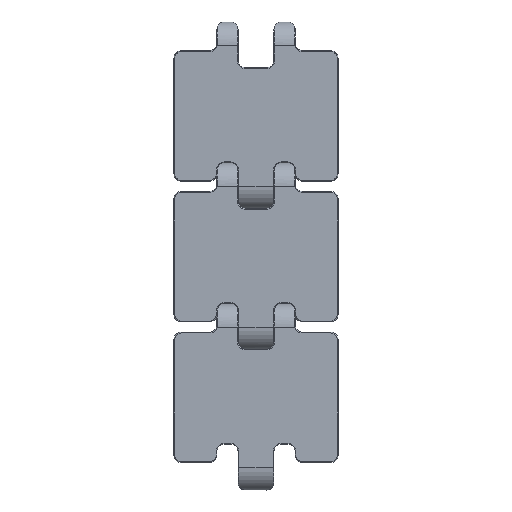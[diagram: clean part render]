
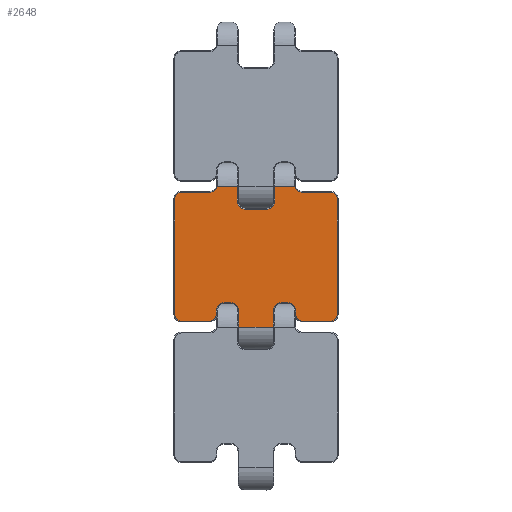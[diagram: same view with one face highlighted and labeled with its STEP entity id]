
A CAD part, top view. The second image highlights one B-rep face of the part: STEP entity #2648.
In plain terms, the highlighted planar face has unit normal (0, 0, 1).
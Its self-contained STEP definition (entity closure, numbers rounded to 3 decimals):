
#1972=EDGE_CURVE('',#5652,#5653,#5654,.F.);
#1986=EDGE_CURVE('',#5678,#5679,#5680,.F.);
#2104=EDGE_CURVE('',#5679,#5881,#5882,.T.);
#2238=EDGE_CURVE('',#5540,#6107,#6108,.T.);
#2338=EDGE_CURVE('',#6264,#5370,#6265,.F.);
#2344=EDGE_CURVE('',#6107,#5958,#6274,.T.);
#2430=EDGE_CURVE('',#6410,#5976,#6411,.F.);
#2438=EDGE_CURVE('',#5881,#5540,#6421,.T.);
#2468=EDGE_CURVE('',#6464,#6465,#6466,.T.);
#2636=EDGE_CURVE('',#6433,#6717,#6718,.T.);
#2648=ADVANCED_FACE('',(#6733),#6734,.F.);
#2776=EDGE_CURVE('',#6919,#6920,#6921,.F.);
#2816=EDGE_CURVE('',#6445,#6979,#6980,.F.);
#2908=EDGE_CURVE('',#5976,#6919,#7121,.F.);
#3094=EDGE_CURVE('',#7388,#5678,#7389,.F.);
#3224=EDGE_CURVE('',#6465,#7564,#7565,.T.);
#3332=EDGE_CURVE('',#5370,#7715,#7716,.F.);
#3566=EDGE_CURVE('',#7419,#6410,#8020,.F.);
#3744=EDGE_CURVE('',#8251,#8252,#8253,.F.);
#3822=EDGE_CURVE('',#5653,#6433,#8355,.T.);
#3844=EDGE_CURVE('',#8320,#7419,#8381,.T.);
#3872=EDGE_CURVE('',#6717,#7305,#8419,.T.);
#3892=EDGE_CURVE('',#6248,#6464,#8443,.T.);
#4094=EDGE_CURVE('',#6979,#8320,#8692,.T.);
#4336=EDGE_CURVE('',#7305,#7792,#8977,.T.);
#4424=EDGE_CURVE('',#9048,#6445,#9082,.T.);
#4738=EDGE_CURVE('',#7715,#6248,#9449,.T.);
#4776=EDGE_CURVE('',#7792,#9491,#9492,.F.);
#4780=EDGE_CURVE('',#5652,#5958,#9496,.T.);
#4812=EDGE_CURVE('',#7564,#9048,#9533,.F.);
#4832=EDGE_CURVE('',#8252,#6264,#9556,.T.);
#5134=EDGE_CURVE('',#9491,#8251,#9907,.F.);
#5158=EDGE_CURVE('',#6920,#7388,#9936,.F.);
#5370=VERTEX_POINT('',#10186);
#5540=VERTEX_POINT('',#10568);
#5652=VERTEX_POINT('',#11019);
#5653=VERTEX_POINT('',#11020);
#5654=LINE('',#11021,#11022);
#5678=VERTEX_POINT('',#11143);
#5679=VERTEX_POINT('',#11144);
#5680=LINE('',#11145,#11146);
#5881=VERTEX_POINT('',#11652);
#5882=CIRCLE('',#11653,2.2);
#5958=VERTEX_POINT('',#11880);
#5976=VERTEX_POINT('',#11905);
#6107=VERTEX_POINT('',#12186);
#6108=CIRCLE('',#12187,2.2);
#6248=VERTEX_POINT('',#12501);
#6264=VERTEX_POINT('',#12542);
#6265=CIRCLE('',#12543,1.8);
#6274=LINE('',#12661,#12662);
#6410=VERTEX_POINT('',#13074);
#6411=CIRCLE('',#13075,1.8);
#6421=LINE('',#13087,#13088);
#6433=VERTEX_POINT('',#13102);
#6445=VERTEX_POINT('',#13204);
#6464=VERTEX_POINT('',#13256);
#6465=VERTEX_POINT('',#13257);
#6466=LINE('',#13258,#13259);
#6717=VERTEX_POINT('',#13749);
#6718=LINE('',#13750,#13751);
#6733=FACE_OUTER_BOUND('',#13770,.T.);
#6734=PLANE('',#13771);
#6919=VERTEX_POINT('',#14311);
#6920=VERTEX_POINT('',#14312);
#6921=CIRCLE('',#14313,1.8);
#6979=VERTEX_POINT('',#14478);
#6980=LINE('',#14479,#14480);
#7121=LINE('',#14771,#14772);
#7305=VERTEX_POINT('',#15325);
#7388=VERTEX_POINT('',#15457);
#7389=CIRCLE('',#15458,1.8);
#7419=VERTEX_POINT('',#15513);
#7564=VERTEX_POINT('',#15782);
#7565=CIRCLE('',#15783,2.2);
#7715=VERTEX_POINT('',#16022);
#7716=LINE('',#16023,#16024);
#7792=VERTEX_POINT('',#16169);
#8020=LINE('',#16706,#16707);
#8251=VERTEX_POINT('',#17421);
#8252=VERTEX_POINT('',#17422);
#8253=CIRCLE('',#17423,1.8);
#8320=VERTEX_POINT('',#17524);
#8355=CIRCLE('',#17692,2.2);
#8381=CIRCLE('',#17735,2.2);
#8419=CIRCLE('',#17797,2.2);
#8443=LINE('',#17848,#17849);
#8692=LINE('',#18411,#18412);
#8977=LINE('',#19195,#19196);
#9048=VERTEX_POINT('',#19443);
#9082=CIRCLE('',#19584,2.2);
#9449=CIRCLE('',#20959,2.2);
#9491=VERTEX_POINT('',#21071);
#9492=CIRCLE('',#21072,1.8);
#9496=LINE('',#21079,#21080);
#9533=LINE('',#21200,#21201);
#9556=LINE('',#21275,#21276);
#9907=LINE('',#22487,#22488);
#9936=LINE('',#22562,#22563);
#10186=CARTESIAN_POINT('',(20.225,74.6,6.45));
#10568=CARTESIAN_POINT('',(-6.85,44.7,6.45));
#11019=CARTESIAN_POINT('',(4.65,38.1,6.45));
#11020=CARTESIAN_POINT('',(4.65,42.5,6.45));
#11021=CARTESIAN_POINT('',(4.65,40.3,6.45));
#11022=VECTOR('',#23328,1.0);
#11143=CARTESIAN_POINT('',(-10.8,41.5,6.45));
#11144=CARTESIAN_POINT('',(-10.8,42.5,6.45));
#11145=CARTESIAN_POINT('',(-10.8,42.,6.45));
#11146=VECTOR('',#23348,1.0);
#11652=CARTESIAN_POINT('',(-8.6,44.7,6.45));
#11653=AXIS2_PLACEMENT_3D('',#23581,#23582,#23583);
#11880=CARTESIAN_POINT('',(-4.65,38.1,6.45));
#11905=CARTESIAN_POINT('',(-22.025,72.8,6.45));
#12186=CARTESIAN_POINT('',(-4.65,42.5,6.45));
#12187=AXIS2_PLACEMENT_3D('',#23796,#23797,#23798);
#12501=CARTESIAN_POINT('',(10.483,76.2,6.45));
#12542=CARTESIAN_POINT('',(22.025,72.8,6.45));
#12543=AXIS2_PLACEMENT_3D('',#23998,#23999,#24000);
#12661=CARTESIAN_POINT('',(-4.65,40.3,6.45));
#12662=VECTOR('',#24010,1.0);
#13074=CARTESIAN_POINT('',(-20.225,74.6,6.45));
#13075=AXIS2_PLACEMENT_3D('',#24170,#24171,#24172);
#13087=CARTESIAN_POINT('',(-7.725,44.7,6.45));
#13088=VECTOR('',#24192,1.0);
#13102=CARTESIAN_POINT('',(6.85,44.7,6.45));
#13204=CARTESIAN_POINT('',(-5.05,72.2,6.45));
#13256=CARTESIAN_POINT('',(5.05,76.2,6.45));
#13257=CARTESIAN_POINT('',(5.05,72.2,6.45));
#13258=CARTESIAN_POINT('',(5.05,74.2,6.45));
#13259=VECTOR('',#24262,1.0);
#13749=CARTESIAN_POINT('',(8.6,44.7,6.45));
#13750=CARTESIAN_POINT('',(7.725,44.7,6.45));
#13751=VECTOR('',#24611,1.0);
#13770=EDGE_LOOP('',(#24633,#24634,#24635,#24636,#24637,#24638,#24639,#24640,#24641,#24642,#24643,#24644,#24645,#24646,#24647,#24648,#24649,#24650,#24651,#24652,#24653,#24654,#24655,#24656,#24657,#24658,#24659,#24660,#24661,#24662,#24663,#24664));
#13771=AXIS2_PLACEMENT_3D('',#24665,#24666,#24667);
#14311=CARTESIAN_POINT('',(-22.025,41.5,6.45));
#14312=CARTESIAN_POINT('',(-20.225,39.7,6.45));
#14313=AXIS2_PLACEMENT_3D('',#24929,#24930,#24931);
#14478=CARTESIAN_POINT('',(-5.05,76.2,6.45));
#14479=CARTESIAN_POINT('',(-5.05,74.2,6.45));
#14480=VECTOR('',#25015,1.0);
#14771=CARTESIAN_POINT('',(-22.025,57.15,6.45));
#14772=VECTOR('',#25195,1.0);
#15325=CARTESIAN_POINT('',(10.8,42.5,6.45));
#15457=CARTESIAN_POINT('',(-12.6,39.7,6.45));
#15458=AXIS2_PLACEMENT_3D('',#25588,#25589,#25590);
#15513=CARTESIAN_POINT('',(-12.6,74.6,6.45));
#15782=CARTESIAN_POINT('',(2.85,70.,6.45));
#15783=AXIS2_PLACEMENT_3D('',#25869,#25870,#25871);
#16022=CARTESIAN_POINT('',(12.6,74.6,6.45));
#16023=CARTESIAN_POINT('',(13.238,74.6,6.45));
#16024=VECTOR('',#26098,1.0);
#16169=CARTESIAN_POINT('',(10.8,41.5,6.45));
#16706=CARTESIAN_POINT('',(-13.238,74.6,6.45));
#16707=VECTOR('',#26535,1.0);
#17421=CARTESIAN_POINT('',(20.225,39.7,6.45));
#17422=CARTESIAN_POINT('',(22.025,41.5,6.45));
#17423=AXIS2_PLACEMENT_3D('',#26861,#26862,#26863);
#17524=CARTESIAN_POINT('',(-10.483,76.2,6.45));
#17692=AXIS2_PLACEMENT_3D('',#27043,#27044,#27045);
#17735=AXIS2_PLACEMENT_3D('',#27082,#27083,#27084);
#17797=AXIS2_PLACEMENT_3D('',#27134,#27135,#27136);
#17848=CARTESIAN_POINT('',(7.767,76.2,6.45));
#17849=VECTOR('',#27167,1.0);
#18411=CARTESIAN_POINT('',(-7.767,76.2,6.45));
#18412=VECTOR('',#27557,1.0);
#19195=CARTESIAN_POINT('',(10.8,42.,6.45));
#19196=VECTOR('',#27969,1.0);
#19443=CARTESIAN_POINT('',(-2.85,70.,6.45));
#19584=AXIS2_PLACEMENT_3D('',#28102,#28103,#28104);
#20959=AXIS2_PLACEMENT_3D('',#28695,#28696,#28697);
#21071=CARTESIAN_POINT('',(12.6,39.7,6.45));
#21072=AXIS2_PLACEMENT_3D('',#28746,#28747,#28748);
#21079=CARTESIAN_POINT('',(0.,38.1,6.45));
#21080=VECTOR('',#28750,1.0);
#21200=CARTESIAN_POINT('',(0.,70.,6.45));
#21201=VECTOR('',#28812,1.0);
#21275=CARTESIAN_POINT('',(22.025,57.15,6.45));
#21276=VECTOR('',#28839,1.0);
#22487=CARTESIAN_POINT('',(13.238,39.7,6.45));
#22488=VECTOR('',#29397,1.0);
#22562=CARTESIAN_POINT('',(-13.237,39.7,6.45));
#22563=VECTOR('',#29447,1.0);
#23328=DIRECTION('',(0.0,-1.0,0.0));
#23348=DIRECTION('',(0.0,-1.0,0.0));
#23581=CARTESIAN_POINT('',(-8.6,42.5,6.45));
#23582=DIRECTION('',(0.0,0.0,-1.0));
#23583=DIRECTION('',(1.0,0.0,0.0));
#23796=CARTESIAN_POINT('',(-6.85,42.5,6.45));
#23797=DIRECTION('',(0.0,0.0,-1.0));
#23798=DIRECTION('',(1.0,0.0,0.0));
#23998=CARTESIAN_POINT('',(20.225,72.8,6.45));
#23999=DIRECTION('',(0.0,0.0,-1.0));
#24000=DIRECTION('',(1.0,0.0,0.0));
#24010=DIRECTION('',(0.0,-1.0,0.0));
#24170=CARTESIAN_POINT('',(-20.225,72.8,6.45));
#24171=DIRECTION('',(0.0,0.0,-1.0));
#24172=DIRECTION('',(1.0,0.0,0.0));
#24192=DIRECTION('',(1.0,0.0,0.0));
#24262=DIRECTION('',(0.0,-1.0,0.0));
#24611=DIRECTION('',(1.0,0.0,0.0));
#24633=ORIENTED_EDGE('',*,*,#3892,.T.);
#24634=ORIENTED_EDGE('',*,*,#2468,.T.);
#24635=ORIENTED_EDGE('',*,*,#3224,.T.);
#24636=ORIENTED_EDGE('',*,*,#4812,.T.);
#24637=ORIENTED_EDGE('',*,*,#4424,.T.);
#24638=ORIENTED_EDGE('',*,*,#2816,.T.);
#24639=ORIENTED_EDGE('',*,*,#4094,.T.);
#24640=ORIENTED_EDGE('',*,*,#3844,.T.);
#24641=ORIENTED_EDGE('',*,*,#3566,.T.);
#24642=ORIENTED_EDGE('',*,*,#2430,.T.);
#24643=ORIENTED_EDGE('',*,*,#2908,.T.);
#24644=ORIENTED_EDGE('',*,*,#2776,.T.);
#24645=ORIENTED_EDGE('',*,*,#5158,.T.);
#24646=ORIENTED_EDGE('',*,*,#3094,.T.);
#24647=ORIENTED_EDGE('',*,*,#1986,.T.);
#24648=ORIENTED_EDGE('',*,*,#2104,.T.);
#24649=ORIENTED_EDGE('',*,*,#2438,.T.);
#24650=ORIENTED_EDGE('',*,*,#2238,.T.);
#24651=ORIENTED_EDGE('',*,*,#2344,.T.);
#24652=ORIENTED_EDGE('',*,*,#4780,.F.);
#24653=ORIENTED_EDGE('',*,*,#1972,.T.);
#24654=ORIENTED_EDGE('',*,*,#3822,.T.);
#24655=ORIENTED_EDGE('',*,*,#2636,.T.);
#24656=ORIENTED_EDGE('',*,*,#3872,.T.);
#24657=ORIENTED_EDGE('',*,*,#4336,.T.);
#24658=ORIENTED_EDGE('',*,*,#4776,.T.);
#24659=ORIENTED_EDGE('',*,*,#5134,.T.);
#24660=ORIENTED_EDGE('',*,*,#3744,.T.);
#24661=ORIENTED_EDGE('',*,*,#4832,.T.);
#24662=ORIENTED_EDGE('',*,*,#2338,.T.);
#24663=ORIENTED_EDGE('',*,*,#3332,.T.);
#24664=ORIENTED_EDGE('',*,*,#4738,.T.);
#24665=CARTESIAN_POINT('',(0.0,38.1,6.45));
#24666=DIRECTION('',(-0.0,-0.0,-1.0));
#24667=DIRECTION('',(0.0,-1.0,0.0));
#24929=CARTESIAN_POINT('',(-20.225,41.5,6.45));
#24930=DIRECTION('',(0.0,0.0,-1.0));
#24931=DIRECTION('',(1.0,0.0,0.0));
#25015=DIRECTION('',(0.0,-1.0,0.0));
#25195=DIRECTION('',(0.0,1.0,0.0));
#25588=CARTESIAN_POINT('',(-12.6,41.5,6.45));
#25589=DIRECTION('',(0.0,0.0,-1.0));
#25590=DIRECTION('',(1.0,0.0,0.0));
#25869=CARTESIAN_POINT('',(2.85,72.2,6.45));
#25870=DIRECTION('',(0.0,0.0,-1.0));
#25871=DIRECTION('',(1.0,0.0,0.0));
#26098=DIRECTION('',(1.0,0.0,0.0));
#26535=DIRECTION('',(1.0,0.0,0.0));
#26861=CARTESIAN_POINT('',(20.225,41.5,6.45));
#26862=DIRECTION('',(0.0,0.0,-1.0));
#26863=DIRECTION('',(1.0,0.0,0.0));
#27043=CARTESIAN_POINT('',(6.85,42.5,6.45));
#27044=DIRECTION('',(0.0,0.0,-1.0));
#27045=DIRECTION('',(1.0,0.0,0.0));
#27082=CARTESIAN_POINT('',(-12.6,76.8,6.45));
#27083=DIRECTION('',(0.0,0.0,-1.0));
#27084=DIRECTION('',(1.0,0.0,0.0));
#27134=CARTESIAN_POINT('',(8.6,42.5,6.45));
#27135=DIRECTION('',(0.0,0.0,-1.0));
#27136=DIRECTION('',(1.0,0.0,0.0));
#27167=DIRECTION('',(-1.0,0.0,0.0));
#27557=DIRECTION('',(-1.0,0.0,0.0));
#27969=DIRECTION('',(0.0,-1.0,0.0));
#28102=CARTESIAN_POINT('',(-2.85,72.2,6.45));
#28103=DIRECTION('',(0.0,0.0,-1.0));
#28104=DIRECTION('',(1.0,0.0,0.0));
#28695=CARTESIAN_POINT('',(12.6,76.8,6.45));
#28696=DIRECTION('',(0.0,0.0,-1.0));
#28697=DIRECTION('',(1.0,0.0,0.0));
#28746=CARTESIAN_POINT('',(12.6,41.5,6.45));
#28747=DIRECTION('',(0.0,0.0,-1.0));
#28748=DIRECTION('',(1.0,0.0,0.0));
#28750=DIRECTION('',(-1.0,0.0,0.0));
#28812=DIRECTION('',(1.0,0.0,0.0));
#28839=DIRECTION('',(0.0,1.0,0.0));
#29397=DIRECTION('',(-1.0,0.0,0.0));
#29447=DIRECTION('',(-1.0,0.0,0.0));
